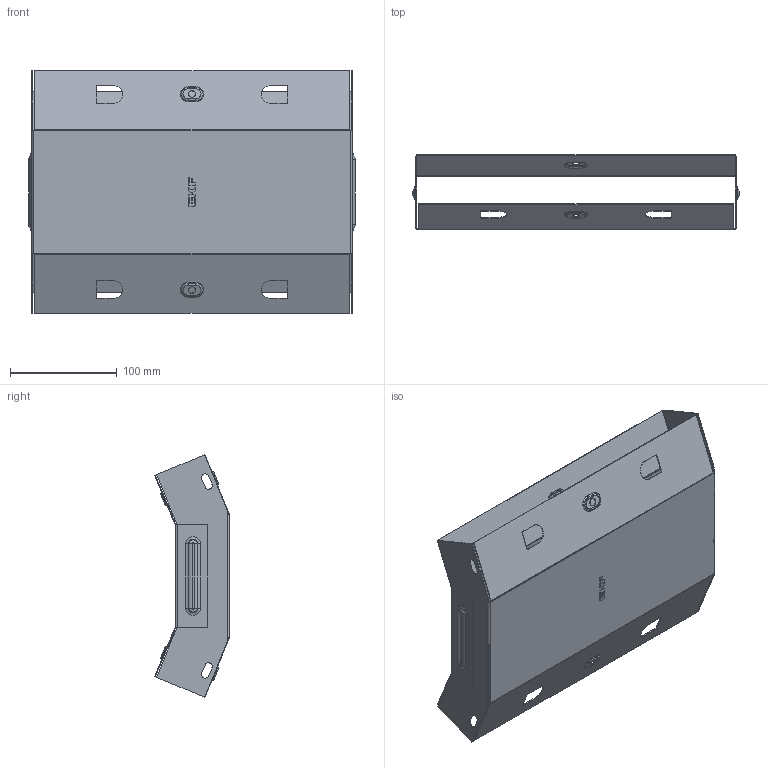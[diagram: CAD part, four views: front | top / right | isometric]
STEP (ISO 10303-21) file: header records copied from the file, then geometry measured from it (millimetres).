
FILE_DESCRIPTION (( 'STEP AP214' ), '1' );
FILE_NAME ('vi4550300_捘.STEP', '2019-06-10T08:32:26', ( '砐錪賧瘔蠈錪 Windows' ), ( '' ), 'SwSTEP 2.0', 'SolidWorks 2018', '' );
FILE_SCHEMA (( 'AUTOMOTIVE_DESIGN' ));
Length unit declared in the file: millimetre
Products named in the file (1): vi4550300_捘
Bounding box: 305.6 x 69.93 x 227.28 mm (x, y, z)
Volume: 122884.8 mm3; surface area: 309868.4 mm2
Topology: 2 solids, 2 shells, 432 faces, 1104 edges, 704 vertices
Faces by surface type: plane 234, cylinder 116, torus 64, bspline 18
Entity records: 13972 total; most frequent: CARTESIAN_POINT 3260, DIRECTION 2226, ORIENTED_EDGE 2208, EDGE_CURVE 1104, AXIS2_PLACEMENT_3D 743, LINE 740, VECTOR 740, VERTEX_POINT 704
